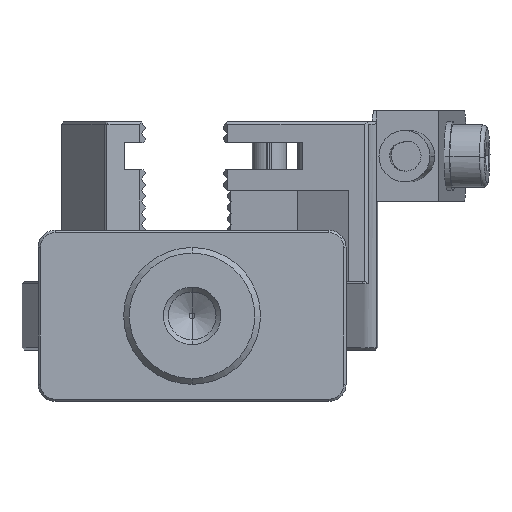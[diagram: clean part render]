
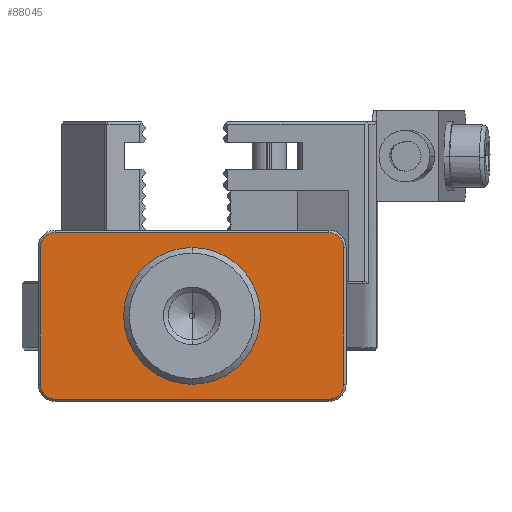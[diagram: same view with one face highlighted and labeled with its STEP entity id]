
A CAD part, front view. The second image highlights one B-rep face of the part: STEP entity #88045.
In plain terms, the highlighted planar face has unit normal (0, -1, 0).
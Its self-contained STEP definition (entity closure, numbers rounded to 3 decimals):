
#1367 = CARTESIAN_POINT ( 'NONE',  ( 0.412, -23.942, 82.2 ) ) ;
#1796 = EDGE_CURVE ( 'NONE', #116842, #46034, #49333, .T. ) ;
#3667 = ORIENTED_EDGE ( 'NONE', *, *, #78886, .F. ) ;
#4112 = CARTESIAN_POINT ( 'NONE',  ( -23.588, -23.942, 68.9 ) ) ;
#6790 = CARTESIAN_POINT ( 'NONE',  ( 0.912, -23.942, 82.4 ) ) ;
#11615 = ORIENTED_EDGE ( 'NONE', *, *, #1796, .T. ) ;
#11972 = CARTESIAN_POINT ( 'NONE',  ( -11.588, -23.942, 68.9 ) ) ;
#12880 = CARTESIAN_POINT ( 'NONE',  ( -24.888, -23.942, 80.9 ) ) ;
#13895 = DIRECTION ( 'NONE',  ( -1., 0., 0. ) ) ;
#14622 = CARTESIAN_POINT ( 'NONE',  ( -11.588, -23.942, 74.9 ) ) ;
#15019 = VERTEX_POINT ( 'NONE', #115546 ) ;
#15406 = DIRECTION ( 'NONE',  ( 0., 0., 1. ) ) ;
#16296 = FACE_OUTER_BOUND ( 'NONE', #111743, .T. ) ;
#16608 = DIRECTION ( 'NONE',  ( 0., -1., 0. ) ) ;
#19799 = CIRCLE ( 'NONE', #58739, 1.3 ) ;
#21218 = AXIS2_PLACEMENT_3D ( 'NONE', #6790, #16608, #84385 ) ;
#21307 = ORIENTED_EDGE ( 'NONE', *, *, #84622, .T. ) ;
#23504 = VECTOR ( 'NONE', #90079, 1000. ) ;
#23941 = CARTESIAN_POINT ( 'NONE',  ( 0.412, -23.942, 67.6 ) ) ;
#24405 = DIRECTION ( 'NONE',  ( 0., 0., 1. ) ) ;
#24727 = LINE ( 'NONE', #95820, #98822 ) ;
#26478 = DIRECTION ( 'NONE',  ( 0., -1., 0. ) ) ;
#27328 = DIRECTION ( 'NONE',  ( 0., 1., 0. ) ) ;
#27841 = CIRCLE ( 'NONE', #102849, 1.3 ) ;
#27843 = CARTESIAN_POINT ( 'NONE',  ( -24.888, -23.942, 68.9 ) ) ;
#28208 = CIRCLE ( 'NONE', #37253, 6. ) ;
#28939 = ORIENTED_EDGE ( 'NONE', *, *, #75831, .T. ) ;
#30072 = ORIENTED_EDGE ( 'NONE', *, *, #65879, .T. ) ;
#35952 = CARTESIAN_POINT ( 'NONE',  ( -23.588, -23.942, 80.9 ) ) ;
#37253 = AXIS2_PLACEMENT_3D ( 'NONE', #85306, #27328, #94925 ) ;
#39956 = DIRECTION ( 'NONE',  ( 0., -1., 0. ) ) ;
#41531 = VERTEX_POINT ( 'NONE', #100378 ) ;
#43336 = VERTEX_POINT ( 'NONE', #11972 ) ;
#44232 = ORIENTED_EDGE ( 'NONE', *, *, #50411, .T. ) ;
#44722 = CARTESIAN_POINT ( 'NONE',  ( 1.712, -23.942, 82.4 ) ) ;
#45702 = DIRECTION ( 'NONE',  ( 0., 0., 1. ) ) ;
#46034 = VERTEX_POINT ( 'NONE', #27843 ) ;
#46474 = EDGE_CURVE ( 'NONE', #95881, #43336, #28208, .T. ) ;
#46707 = CIRCLE ( 'NONE', #85392, 1.3 ) ;
#49333 = LINE ( 'NONE', #92298, #23504 ) ;
#50080 = EDGE_CURVE ( 'NONE', #97685, #41531, #99938, .T. ) ;
#50411 = EDGE_CURVE ( 'NONE', #87137, #97685, #105828, .T. ) ;
#50505 = EDGE_CURVE ( 'NONE', #94948, #15019, #87786, .T. ) ;
#50589 = ORIENTED_EDGE ( 'NONE', *, *, #50080, .T. ) ;
#51755 = AXIS2_PLACEMENT_3D ( 'NONE', #14622, #82416, #24405 ) ;
#56530 = ORIENTED_EDGE ( 'NONE', *, *, #46474, .T. ) ;
#58739 = AXIS2_PLACEMENT_3D ( 'NONE', #84454, #26478, #94107 ) ;
#63307 = EDGE_LOOP ( 'NONE', ( #56530, #30072 ) ) ;
#64861 = FACE_BOUND ( 'NONE', #63307, .T. ) ;
#65286 = VECTOR ( 'NONE', #15406, 1000. ) ;
#65879 = EDGE_CURVE ( 'NONE', #43336, #95881, #121144, .T. ) ;
#68209 = VECTOR ( 'NONE', #118396, 1000. ) ;
#70786 = AXIS2_PLACEMENT_3D ( 'NONE', #97793, #39956, #107481 ) ;
#71937 = DIRECTION ( 'NONE',  ( 0., 1., 0. ) ) ;
#75831 = EDGE_CURVE ( 'NONE', #15019, #116842, #27841, .T. ) ;
#78886 = EDGE_CURVE ( 'NONE', #79217, #46034, #46707, .T. ) ;
#79217 = VERTEX_POINT ( 'NONE', #125264 ) ;
#79737 = EDGE_CURVE ( 'NONE', #41531, #94948, #19799, .T. ) ;
#82416 = DIRECTION ( 'NONE',  ( 0., 1., 0. ) ) ;
#84046 = CARTESIAN_POINT ( 'NONE',  ( -11.588, -23.942, 80.9 ) ) ;
#84385 = DIRECTION ( 'NONE',  ( 0., 0., -1. ) ) ;
#84454 = CARTESIAN_POINT ( 'NONE',  ( 0.412, -23.942, 80.9 ) ) ;
#84622 = EDGE_CURVE ( 'NONE', #79217, #87137, #24727, .T. ) ;
#85306 = CARTESIAN_POINT ( 'NONE',  ( -11.588, -23.942, 74.9 ) ) ;
#85392 = AXIS2_PLACEMENT_3D ( 'NONE', #4112, #71937, #13895 ) ;
#85798 = DIRECTION ( 'NONE',  ( 1., 0., 0. ) ) ;
#87137 = VERTEX_POINT ( 'NONE', #23941 ) ;
#87786 = LINE ( 'NONE', #108710, #68209 ) ;
#88045 = ADVANCED_FACE ( 'NONE', ( #64861, #16296 ), #122595, .T. ) ;
#90079 = DIRECTION ( 'NONE',  ( 0., 0., -1. ) ) ;
#92298 = CARTESIAN_POINT ( 'NONE',  ( -24.888, -23.942, 82.4 ) ) ;
#94107 = DIRECTION ( 'NONE',  ( 0., 0., 1. ) ) ;
#94925 = DIRECTION ( 'NONE',  ( 0., 0., 1. ) ) ;
#94948 = VERTEX_POINT ( 'NONE', #1367 ) ;
#95820 = CARTESIAN_POINT ( 'NONE',  ( 0.912, -23.942, 67.6 ) ) ;
#95881 = VERTEX_POINT ( 'NONE', #84046 ) ;
#97685 = VERTEX_POINT ( 'NONE', #106257 ) ;
#97793 = CARTESIAN_POINT ( 'NONE',  ( 0.412, -23.942, 68.9 ) ) ;
#98822 = VECTOR ( 'NONE', #85798, 1000. ) ;
#99938 = LINE ( 'NONE', #44722, #65286 ) ;
#100378 = CARTESIAN_POINT ( 'NONE',  ( 1.712, -23.942, 80.9 ) ) ;
#102849 = AXIS2_PLACEMENT_3D ( 'NONE', #35952, #103457, #45702 ) ;
#103457 = DIRECTION ( 'NONE',  ( 0., -1., 0. ) ) ;
#104425 = ORIENTED_EDGE ( 'NONE', *, *, #79737, .T. ) ;
#105828 = CIRCLE ( 'NONE', #70786, 1.3 ) ;
#106257 = CARTESIAN_POINT ( 'NONE',  ( 1.712, -23.942, 68.9 ) ) ;
#107481 = DIRECTION ( 'NONE',  ( 0., 0., 1. ) ) ;
#108710 = CARTESIAN_POINT ( 'NONE',  ( 0.912, -23.942, 82.2 ) ) ;
#111743 = EDGE_LOOP ( 'NONE', ( #104425, #117460, #28939, #11615, #3667, #21307, #44232, #50589 ) ) ;
#115546 = CARTESIAN_POINT ( 'NONE',  ( -23.588, -23.942, 82.2 ) ) ;
#116842 = VERTEX_POINT ( 'NONE', #12880 ) ;
#117460 = ORIENTED_EDGE ( 'NONE', *, *, #50505, .T. ) ;
#118396 = DIRECTION ( 'NONE',  ( -1., 0., 0. ) ) ;
#121144 = CIRCLE ( 'NONE', #51755, 6. ) ;
#122595 = PLANE ( 'NONE',  #21218 ) ;
#125264 = CARTESIAN_POINT ( 'NONE',  ( -23.588, -23.942, 67.6 ) ) ;
